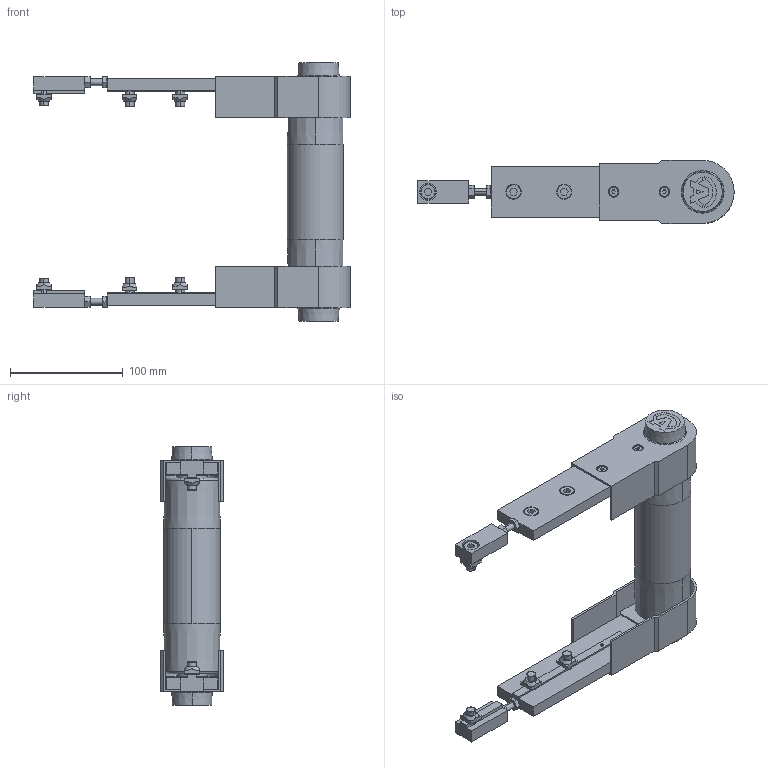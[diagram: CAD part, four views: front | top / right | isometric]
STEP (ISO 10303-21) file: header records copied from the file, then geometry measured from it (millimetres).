
FILE_DESCRIPTION (( 'STEP AP203' ), '1' );
FILE_NAME ('084.050.KIS.150.STEP', '2019-07-29T10:19:12', ( '' ), ( '' ), 'SwSTEP 2.0', 'SolidWorks 2018', '' );
FILE_SCHEMA (( 'CONFIG_CONTROL_DESIGN' ));
Length unit declared in the file: millimetre
Products named in the file (11): 084.302.000 DADI ALUSIC 13x13_084.302.004; 084.301.000 VITI ALUSIC_084.301.003; 084.810.001; 084.050.KIS.150; 084.802.008; 084.802.017_084.802.017; VITI TSEI UNI 5933_M4x12 UNI 5933; 084.802.023_084.802.023; 084.807.002_084.807.002; 084.815.102_Default<A macchina>; 084.811.004
Assembly tree (29 placements, depth 2):
  084.050.KIS.150
    084.807.002_084.807.002  x2
    084.802.017_084.802.017  x2
    084.811.004  x2
    084.815.102_Default<A macchina>
    084.810.001  x2
    084.802.008  x2
    084.802.023_084.802.023  x2
    VITI TSEI UNI 5933_M4x12 UNI 5933  x4
    084.301.000 VITI ALUSIC_084.301.003  x6
    084.302.000 DADI ALUSIC 13x13_084.302.004  x6
Bounding box: 281 x 56 x 230 mm (x, y, z)
Volume: 460368.3 mm3; surface area: 265211.8 mm2
Topology: 35 solids, 37 shells, 892 faces, 2204 edges, 1428 vertices
Faces by surface type: plane 446, cylinder 250, cone 92, torus 80, bspline 16, sphere 8
Entity records: 14237 total; most frequent: CARTESIAN_POINT 2444, DIRECTION 2252, ORIENTED_EDGE 2024, EDGE_CURVE 1012, AXIS2_PLACEMENT_3D 853, VERTEX_POINT 661, LINE 546, VECTOR 546
